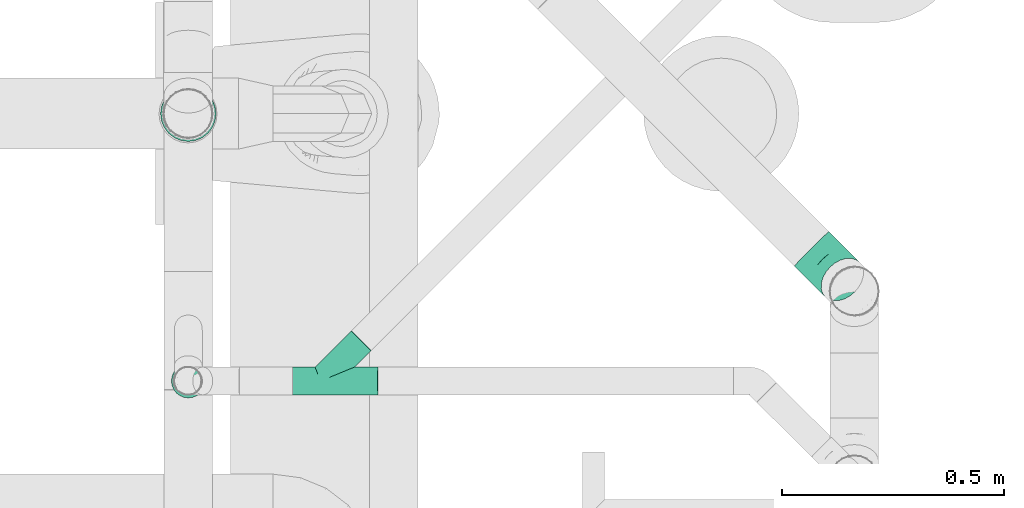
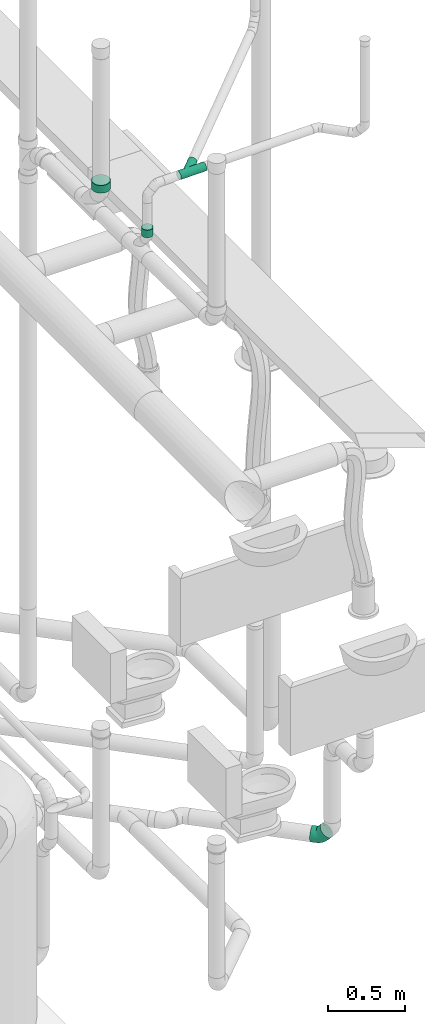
# One storey, part 132 of 374: 4 flow fittings.
"""IFC2X3 building model written with IfcOpenShell, lengths in metres."""

from ifc_helpers import new_model, si_unit, direction, origin, place, context, subcontext, project, spatial, open_shell, surface_model, source, transform, mapped, element, save


model = new_model("IFC2X3")

# Units and contexts
model_context = context("Model", 3, precision=1e-05, world=origin(), true_north=direction((-0.4480736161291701, 0.8939966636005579)))
body_context = subcontext(model_context, "Body", "Model", "MODEL_VIEW")
ifc_project = project(units=[si_unit("LENGTHUNIT", "METRE"), si_unit("AREAUNIT", "SQUARE_METRE"), si_unit("VOLUMEUNIT", "CUBIC_METRE"), si_unit("PLANEANGLEUNIT", "RADIAN"), si_unit("THERMODYNAMICTEMPERATUREUNIT", "KELVIN"), si_unit("MASSUNIT", "GRAM", prefix="KILO"), si_unit("TIMEUNIT", "SECOND")], contexts=[model_context])

# Site, building, storey
site_placement = place(None, origin())
site = spatial("IfcSite", under=ifc_project, at=site_placement, Name="Site 1", CompositionType="ELEMENT")
building_placement = place(site_placement, origin())
building = spatial("IfcBuilding", under=site, at=building_placement, Name="Undefined", CompositionType="ELEMENT")
storey_placement = place(building_placement, origin())
storey = spatial("IfcBuildingStorey", under=building, at=storey_placement, Name="Rez de chauss\x8ee", CompositionType="ELEMENT", Elevation=0.0)

# Flow fittings
shared_shape_1 = source(origin(), body_context, "Body", "SurfaceModel", [
    surface_model("IfcFaceBasedSurfaceModel", [(0.0, 0.0163157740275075, 0.0), (0.0, 0.0, 0.0), (0.06130000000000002, 0.0, 0.0), (0.06130000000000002, 0.0163157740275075, 0.0), (0.0, -0.015759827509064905, -0.004222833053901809), (0.06130000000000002, -0.015759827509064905, -0.004222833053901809), (0.0, -0.029889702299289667, -0.012380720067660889), (0.06130000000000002, -0.029889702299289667, -0.012380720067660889), (0.0, -0.04142669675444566, -0.02391771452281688), (0.06130000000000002, -0.04142669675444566, -0.02391771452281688), (0.0, -0.04958458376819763, -0.038047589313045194), (0.06130000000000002, -0.04958458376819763, -0.038047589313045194), (0.0, -0.053807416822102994, -0.053807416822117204), (0.06130000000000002, -0.053807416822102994, -0.053807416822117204), (0.0, -0.053807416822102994, -0.07012319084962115), (0.06130000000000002, -0.053807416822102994, -0.07012319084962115), (0.0, -0.04958458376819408, -0.08588301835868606), (0.06130000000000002, -0.04958458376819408, -0.08588301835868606), (0.0, -0.04142669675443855, -0.10001289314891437), (0.06130000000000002, -0.04142669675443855, -0.10001289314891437), (0.0, -0.02988970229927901, -0.11154988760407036), (0.06130000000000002, -0.02988970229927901, -0.11154988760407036), (0.0, -0.015759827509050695, -0.11970777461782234), (0.06130000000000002, -0.015759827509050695, -0.11970777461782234), (0.0, 1.4210854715e-14, -0.12393060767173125), (0.06130000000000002, 1.4210854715e-14, -0.12393060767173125), (0.0, 0.016315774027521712, -0.12393060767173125), (0.06130000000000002, 0.016315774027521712, -0.12393060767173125), (0.0, 0.03207560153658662, -0.11970777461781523), (0.06130000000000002, 0.03207560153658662, -0.11970777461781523), (0.0, 0.04620547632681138, -0.11154988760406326), (0.06130000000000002, 0.04620547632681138, -0.11154988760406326), (0.0, 0.05774247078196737, -0.10001289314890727), (0.06130000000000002, 0.05774247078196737, -0.10001289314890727), (0.0, 0.06590035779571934, -0.08588301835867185), (0.06130000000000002, 0.06590035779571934, -0.08588301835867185), (0.0, 0.0701231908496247, -0.07012319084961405), (0.06130000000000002, 0.0701231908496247, -0.07012319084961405), (0.0, 0.0701231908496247, -0.05380741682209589), (0.06130000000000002, 0.0701231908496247, -0.05380741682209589), (0.0, 0.06590035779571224, -0.03804758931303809), (0.06130000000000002, 0.06590035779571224, -0.03804758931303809), (0.0, 0.05774247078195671, -0.023917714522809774), (0.06130000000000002, 0.05774247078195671, -0.023917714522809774), (0.0, 0.04620547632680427, -0.012380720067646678), (0.06130000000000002, 0.04620547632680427, -0.012380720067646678), (0.0, 0.03207560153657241, -0.004222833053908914), (0.06130000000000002, 0.03207560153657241, -0.004222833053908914), (0.0, 0.00815788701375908, -0.06196530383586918), (0.06130000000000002, 0.00815788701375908, -0.06196530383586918)], [open_shell([[[0, 1, 2, 3]], [[1, 4, 5, 2]], [[4, 6, 7, 5]], [[6, 8, 9, 7]], [[8, 10, 11, 9]], [[10, 12, 13, 11]], [[12, 14, 15, 13]], [[14, 16, 17, 15]], [[16, 18, 19, 17]], [[18, 20, 21, 19]], [[20, 22, 23, 21]], [[22, 24, 25, 23]], [[24, 26, 27, 25]], [[26, 28, 29, 27]], [[28, 30, 31, 29]], [[30, 32, 33, 31]], [[32, 34, 35, 33]], [[34, 36, 37, 35]], [[36, 38, 39, 37]], [[38, 40, 41, 39]], [[40, 42, 43, 41]], [[42, 44, 45, 43]], [[44, 46, 47, 45]], [[46, 0, 3, 47]], [[48, 1, 0]], [[48, 4, 1]], [[48, 6, 4]], [[48, 8, 6]], [[48, 10, 8]], [[48, 12, 10]], [[48, 14, 12]], [[48, 16, 14]], [[48, 18, 16]], [[48, 20, 18]], [[48, 22, 20]], [[48, 24, 22]], [[48, 26, 24]], [[48, 28, 26]], [[48, 30, 28]], [[48, 32, 30]], [[48, 34, 32]], [[48, 36, 34]], [[48, 38, 36]], [[48, 40, 38]], [[48, 42, 40]], [[48, 44, 42]], [[48, 46, 44]], [[48, 0, 46]], [[49, 47, 3]], [[49, 45, 47]], [[49, 43, 45]], [[49, 41, 43]], [[49, 39, 41]], [[49, 37, 39]], [[49, 35, 37]], [[49, 33, 35]], [[49, 31, 33]], [[49, 29, 31]], [[49, 27, 29]], [[49, 25, 27]], [[49, 23, 25]], [[49, 21, 23]], [[49, 19, 21]], [[49, 17, 19]], [[49, 15, 17]], [[49, 13, 15]], [[49, 11, 13]], [[49, 9, 11]], [[49, 7, 9]], [[49, 5, 7]], [[49, 2, 5]], [[49, 3, 2]]])]),
])
flow_fitting_1_placement = place(storey_placement, origin())
element("IfcFlowFitting", 1, at=flow_fitting_1_placement, inside=storey, Name="PE-HD manchon électro soudable", ObjectType="PE-HD manchon électro soudable", context=body_context, shape_type="MappedRepresentation", body=[
    mapped(shared_shape_1, transform((57.01362963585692, 12.828378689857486, 4.3185300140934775), x_axis=(0.0, 0.008726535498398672, -0.9999619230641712), y_axis=(-0.13052619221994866, -0.9914071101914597, -0.008651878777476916), z_axis=(-0.9914448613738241, 0.13052122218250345, 0.0011390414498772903))),
])
shared_shape_2 = source(origin(), body_context, "Body", "SurfaceModel", [
    surface_model("IfcFaceBasedSurfaceModel", [(0.0, 0.008223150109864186, -7.105427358e-15), (0.0, 0.0, 0.0), (0.19200000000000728, 1.776356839e-15, -1.11022302e-16), (0.19200000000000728, 0.00822315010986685, -1.11022302e-16), (0.0, -0.007942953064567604, -0.002128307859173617), (0.19200000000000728, -0.007942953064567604, -0.002128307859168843), (-7.105427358e-15, -0.015064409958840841, -0.006239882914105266), (0.19200000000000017, -0.015064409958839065, -0.006239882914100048), (0.0, -0.020879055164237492, -0.012054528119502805), (0.19200000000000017, -0.020879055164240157, -0.01205452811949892), (0.0, -0.024990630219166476, -0.01917598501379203), (0.19200000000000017, -0.024990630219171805, -0.01917598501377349), (-7.105427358e-15, -0.027118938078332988, -0.027118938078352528), (0.19200000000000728, -0.027118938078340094, -0.027118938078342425), (-1.4210854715e-14, -0.02711893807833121, -0.035342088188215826), (0.19200000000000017, -0.02711893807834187, -0.03534208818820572), (-7.105427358e-15, -0.024990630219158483, -0.04328504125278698), (0.19200000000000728, -0.024990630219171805, -0.04328504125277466), (-7.105427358e-15, -0.02087905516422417, -0.050406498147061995), (0.19200000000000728, -0.020879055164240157, -0.05040649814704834), (-7.105427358e-15, -0.015064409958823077, -0.05622114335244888), (0.19200000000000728, -0.015064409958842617, -0.0562211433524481), (-1.4210854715e-14, -0.007942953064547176, -0.06033271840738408), (0.19200000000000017, -0.007942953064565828, -0.06033271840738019), (0.0, 2.2204460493e-14, -0.06246102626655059), (0.19200000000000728, -1.776356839e-15, -0.06246102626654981), (0.0, 0.00822315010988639, -0.06246102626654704), (0.19200000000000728, 0.008223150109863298, -0.06246102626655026), (-7.105427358e-15, 0.016166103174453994, -0.06033271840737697), (0.19200000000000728, 0.016166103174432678, -0.060332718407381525), (-7.105427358e-15, 0.02328756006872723, -0.056221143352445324), (0.19200000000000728, 0.023287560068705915, -0.056221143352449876), (0.0, 0.029102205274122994, -0.05040649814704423), (0.19200000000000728, 0.02910220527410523, -0.05040649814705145), (-7.105427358e-15, 0.03321378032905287, -0.043285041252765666), (0.19200000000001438, 0.03321378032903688, -0.04328504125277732), (-7.105427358e-15, 0.03534208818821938, -0.03534208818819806), (0.19200000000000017, 0.03534208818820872, -0.03534208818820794), (-7.105427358e-15, 0.0353420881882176, -0.027118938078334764), (0.19200000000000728, 0.035342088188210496, -0.02711893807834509), (-7.105427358e-15, 0.03321378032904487, -0.019175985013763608), (0.19200000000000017, 0.033213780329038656, -0.019175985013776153), (-7.105427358e-15, 0.02910220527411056, -0.012054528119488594), (0.19200000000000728, 0.029102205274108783, -0.012054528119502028), (-7.105427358e-15, 0.023287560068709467, -0.00623988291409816), (0.19200000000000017, 0.023287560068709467, -0.006239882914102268), (-7.105427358e-15, 0.016166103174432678, -0.0021283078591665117), (0.19200000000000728, 0.016166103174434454, -0.0021283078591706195), (0.1395477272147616, 0.03534208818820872, -0.03534208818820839), (0.13695646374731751, 0.033213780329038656, -0.04328504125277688), (0.17587812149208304, 0.07180245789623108, -0.048365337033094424), (0.1766370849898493, 0.07211414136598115, -0.04018322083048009), (0.12935926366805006, 0.02910220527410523, -0.050406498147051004), (0.17365295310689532, 0.07301695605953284, -0.05618798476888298), (0.11727386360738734, 0.02328756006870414, -0.05622114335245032), (0.1701132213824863, 0.07567486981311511, -0.06311806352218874), (0.10152386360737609, 0.016166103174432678, -0.06033271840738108), (0.16550015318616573, 0.07959506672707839, -0.06868329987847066), (0.08318260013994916, 0.008223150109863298, -0.06246102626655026), (0.160128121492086, 0.08451039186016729, -0.07250443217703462), (0.06350000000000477, 0.0, -0.06246102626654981), (0.15436322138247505, 0.09008587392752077, -0.07432105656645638), (0.06012299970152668, 0.008223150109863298, -0.06246102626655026), (0.1485983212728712, 0.09594155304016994, -0.07400937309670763), (0.05697613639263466, 0.016166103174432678, -0.06033271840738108), (0.14322628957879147, 0.10167837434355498, -0.0715906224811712), (0.05427386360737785, 0.02328756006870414, -0.056221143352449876), (0.1386132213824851, 0.1069053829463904, -0.06722963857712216), (0.05220033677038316, 0.02910220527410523, -0.050406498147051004), (0.13507348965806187, 0.11126636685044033, -0.06122361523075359), (0.05089686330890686, 0.03321378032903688, -0.04328504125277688), (0.13284832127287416, 0.11446413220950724, -0.05398185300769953), (0.050452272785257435, 0.035342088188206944, -0.03534208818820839), (0.13208935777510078, 0.116280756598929, -0.04599786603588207), (0.05089686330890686, 0.03534208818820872, -0.027118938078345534), (0.13284832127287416, 0.1165924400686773, -0.03781574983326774), (0.05220033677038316, 0.03321378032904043, -0.019175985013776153), (0.13507348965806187, 0.11537794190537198, -0.02999310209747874), (0.05427386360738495, 0.029102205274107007, -0.012054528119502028), (0.1386132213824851, 0.1127200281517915, -0.023063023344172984), (0.05697613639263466, 0.023287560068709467, -0.006239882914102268), (0.14322628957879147, 0.10879983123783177, -0.01749778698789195), (0.060122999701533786, 0.016166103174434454, -0.0021283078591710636), (0.1485983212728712, 0.10388450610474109, -0.013676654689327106), (0.06350000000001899, 0.008223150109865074, -5.55111512e-16), (0.15436322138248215, 0.09830902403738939, -0.011860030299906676), (0.08318260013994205, 0.016166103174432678, -0.0021283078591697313), (0.160128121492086, 0.09245334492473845, -0.012171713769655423), (0.10152386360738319, 0.023287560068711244, -0.006239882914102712), (0.16550015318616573, 0.08671652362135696, -0.014590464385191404), (0.11727386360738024, 0.029102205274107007, -0.012054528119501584), (0.1701132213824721, 0.0814895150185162, -0.018951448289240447), (0.12935926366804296, 0.033213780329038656, -0.019175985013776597), (0.17365295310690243, 0.07712853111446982, -0.024957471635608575), (0.13695646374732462, 0.035342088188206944, -0.027118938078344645), (0.17587812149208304, 0.07393076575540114, -0.03219923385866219)], [open_shell([[[0, 1, 2, 3]], [[1, 4, 5, 2]], [[4, 6, 7, 5]], [[6, 8, 9, 7]], [[8, 10, 11, 9]], [[10, 12, 13, 11]], [[12, 14, 15, 13]], [[14, 16, 17, 15]], [[16, 18, 19, 17]], [[18, 20, 21, 19]], [[20, 22, 23, 21]], [[22, 24, 25, 23]], [[24, 26, 27, 25]], [[26, 28, 29, 27]], [[28, 30, 31, 29]], [[30, 32, 33, 31]], [[32, 34, 35, 33]], [[34, 36, 37, 35]], [[36, 38, 39, 37]], [[38, 40, 41, 39]], [[40, 42, 43, 41]], [[42, 44, 45, 43]], [[44, 46, 47, 45]], [[46, 0, 3, 47]], [[48, 49, 50, 51]], [[49, 52, 53, 50]], [[52, 54, 55, 53]], [[54, 56, 57, 55]], [[56, 58, 59, 57]], [[58, 60, 61, 59]], [[60, 62, 63, 61]], [[62, 64, 65, 63]], [[64, 66, 67, 65]], [[66, 68, 69, 67]], [[68, 70, 71, 69]], [[70, 72, 73, 71]], [[72, 74, 75, 73]], [[74, 76, 77, 75]], [[76, 78, 79, 77]], [[78, 80, 81, 79]], [[80, 82, 83, 81]], [[82, 84, 85, 83]], [[84, 86, 87, 85]], [[86, 88, 89, 87]], [[88, 90, 91, 89]], [[90, 92, 93, 91]], [[92, 94, 95, 93]], [[94, 48, 51, 95]]])]),
])
flow_fitting_2_placement = place(storey_placement, origin())
element("IfcFlowFitting", 2, at=flow_fitting_2_placement, inside=storey, Name="PE-HD embranchement 45°", ObjectType="PE-HD embranchement 45°", context=body_context, shape_type="MappedRepresentation", body=[
    mapped(shared_shape_2, transform((57.308841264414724, 12.201658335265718, 4.668982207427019), x_axis=(0.9998875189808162, 0.0, 0.014998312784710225), y_axis=(-0.0020500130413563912, 0.99061485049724, 0.1366675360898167), z_axis=(-0.014857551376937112, -0.13668291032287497, 0.9905034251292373))),
])
shared_shape_3 = source(origin(), body_context, "Body", "SurfaceModel", [
    surface_model("IfcFaceBasedSurfaceModel", [(-8.8817842e-16, 0.009919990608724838, 0.0), (0.0, 0.0, 0.0), (0.06000000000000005, 8.8817842e-16, 0.0), (0.059999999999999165, 0.009919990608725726, 0.0), (-4.4408921e-16, -0.009581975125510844, -0.0025674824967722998), (0.06000000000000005, -0.009581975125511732, -0.0025674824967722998), (-4.4408921e-16, -0.0181729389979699, -0.007527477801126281), (0.05999999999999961, -0.018172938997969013, -0.0075274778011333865), (-4.4408921e-16, -0.02518743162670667, -0.014541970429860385), (0.05999999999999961, -0.025187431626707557, -0.014541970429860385), (0.0, -0.03014742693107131, -0.02313293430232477), (0.05999999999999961, -0.03014742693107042, -0.02313293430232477), (0.0, -0.032714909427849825, -0.03271490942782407), (0.06000000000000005, -0.03271490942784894, -0.03271490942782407), (0.0, -0.0327149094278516, -0.04263490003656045), (0.05999999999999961, -0.032714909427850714, -0.04263490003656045), (-4.4408921e-16, -0.030147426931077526, -0.052216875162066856), (0.05999999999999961, -0.030147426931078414, -0.052216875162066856), (-4.4408921e-16, -0.025187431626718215, -0.060807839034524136), (0.05999999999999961, -0.025187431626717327, -0.06080783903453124), (-4.4408921e-16, -0.018172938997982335, -0.06782233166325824), (0.06000000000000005, -0.018172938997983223, -0.06782233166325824), (-4.4408921e-16, -0.00958197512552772, -0.07278232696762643), (0.06000000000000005, -0.009581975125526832, -0.07278232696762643), (-8.8817842e-16, -1.5987211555e-14, -0.07534980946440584), (0.059999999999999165, -1.5099033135e-14, -0.07534980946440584), (-8.8817842e-16, 0.009919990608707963, -0.07534980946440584), (0.059999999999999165, 0.00991999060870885, -0.07534980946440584), (-4.4408921e-16, 0.019501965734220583, -0.07278232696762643), (0.05999999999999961, 0.01950196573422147, -0.07278232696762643), (-4.4408921e-16, 0.028092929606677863, -0.06782233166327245), (0.059999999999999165, 0.02809292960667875, -0.06782233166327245), (-8.8817842e-16, 0.035107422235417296, -0.06080783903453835), (0.05999999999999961, 0.03510742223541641, -0.06080783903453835), (-8.8817842e-16, 0.04006741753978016, -0.05221687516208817), (0.059999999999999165, 0.04006741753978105, -0.05221687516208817), (-8.8817842e-16, 0.042634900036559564, -0.04263490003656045), (0.059999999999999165, 0.04263490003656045, -0.04263490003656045), (-8.8817842e-16, 0.04263490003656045, -0.03271490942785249), (0.059999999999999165, 0.04263490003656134, -0.03271490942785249), (-8.8817842e-16, 0.04006741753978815, -0.023132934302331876), (0.05999999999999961, 0.040067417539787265, -0.023132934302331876), (-4.4408921e-16, 0.03510742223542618, -0.014541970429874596), (0.059999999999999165, 0.035107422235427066, -0.014541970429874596), (-4.4408921e-16, 0.028092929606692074, -0.007527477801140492), (0.05999999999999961, 0.028092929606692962, -0.007527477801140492), (-8.8817842e-16, 0.019501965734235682, -0.002567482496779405), (0.059999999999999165, 0.01950196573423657, -0.002567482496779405), (-8.8817842e-16, 0.0049599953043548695, -0.037674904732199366), (0.059999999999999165, 0.004959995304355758, -0.037674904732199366)], [open_shell([[[0, 1, 2, 3]], [[1, 4, 5, 2]], [[4, 6, 7, 5]], [[6, 8, 9, 7]], [[8, 10, 11, 9]], [[10, 12, 13, 11]], [[12, 14, 15, 13]], [[14, 16, 17, 15]], [[16, 18, 19, 17]], [[18, 20, 21, 19]], [[20, 22, 23, 21]], [[22, 24, 25, 23]], [[24, 26, 27, 25]], [[26, 28, 29, 27]], [[28, 30, 31, 29]], [[30, 32, 33, 31]], [[32, 34, 35, 33]], [[34, 36, 37, 35]], [[36, 38, 39, 37]], [[38, 40, 41, 39]], [[40, 42, 43, 41]], [[42, 44, 45, 43]], [[44, 46, 47, 45]], [[46, 0, 3, 47]], [[48, 1, 0]], [[48, 4, 1]], [[48, 6, 4]], [[48, 8, 6]], [[48, 10, 8]], [[48, 12, 10]], [[48, 14, 12]], [[48, 16, 14]], [[48, 18, 16]], [[48, 20, 18]], [[48, 22, 20]], [[48, 24, 22]], [[48, 26, 24]], [[48, 28, 26]], [[48, 30, 28]], [[48, 32, 30]], [[48, 34, 32]], [[48, 36, 34]], [[48, 38, 36]], [[48, 40, 38]], [[48, 42, 40]], [[48, 44, 42]], [[48, 46, 44]], [[48, 0, 46]], [[49, 47, 3]], [[49, 45, 47]], [[49, 43, 45]], [[49, 41, 43]], [[49, 39, 41]], [[49, 37, 39]], [[49, 35, 37]], [[49, 33, 35]], [[49, 31, 33]], [[49, 29, 31]], [[49, 27, 29]], [[49, 25, 27]], [[49, 23, 25]], [[49, 21, 23]], [[49, 19, 21]], [[49, 17, 19]], [[49, 15, 17]], [[49, 13, 15]], [[49, 11, 13]], [[49, 9, 11]], [[49, 7, 9]], [[49, 5, 7]], [[49, 2, 5]], [[49, 3, 2]]])]),
])
flow_fitting_3_placement = place(storey_placement, origin())
element("IfcFlowFitting", 3, at=flow_fitting_3_placement, inside=storey, Name="PE-HD manchon électro soudable", ObjectType="PE-HD manchon électro soudable", context=body_context, shape_type="MappedRepresentation", body=[
    mapped(shared_shape_3, transform((57.03729481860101, 12.200416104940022, 4.251981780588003), x_axis=(0.0, -0.00872653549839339, 0.9999619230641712), y_axis=(-0.13052619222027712, 0.9914071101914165, 0.008651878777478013), z_axis=(-0.9914448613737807, -0.13052122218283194, -0.001139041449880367))),
])
shared_shape_4 = source(origin(), body_context, "Body", "SurfaceModel", [
    surface_model("IfcFaceBasedSurfaceModel", [(0.0, 0.014357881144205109, -3.552713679e-15), (0.0, 0.0, 0.0), (0.03509999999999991, 1.776356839e-15, -1.776356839e-15), (0.03509999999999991, 0.014357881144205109, 0.0), (0.0, -0.01386864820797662, -0.0037160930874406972), (0.035100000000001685, -0.01386864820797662, -0.003716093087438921), (0.0, -0.026302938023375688, -0.010895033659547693), (0.03509999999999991, -0.026302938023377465, -0.010895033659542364), (0.0, -0.03645549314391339, -0.021047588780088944), (0.035100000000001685, -0.03645549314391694, -0.021047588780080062), (0.0, -0.04363443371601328, -0.033481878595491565), (0.035100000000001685, -0.043634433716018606, -0.03348187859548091), (0.0, -0.04735052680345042, -0.04735052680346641), (0.03510000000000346, -0.04735052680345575, -0.04735052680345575), (0.0, -0.04735052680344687, -0.06170840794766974), (0.035100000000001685, -0.047350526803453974, -0.061708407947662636), (0.0, -0.04363443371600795, -0.07557705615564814), (0.035100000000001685, -0.04363443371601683, -0.07557705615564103), (0.0, -0.03645549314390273, -0.08801134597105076), (0.035100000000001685, -0.03645549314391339, -0.08801134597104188), (0.0, -0.026302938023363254, -0.0981639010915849), (0.03510000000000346, -0.026302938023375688, -0.09816390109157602), (0.0, -0.013868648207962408, -0.1053428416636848), (0.03510000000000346, -0.013868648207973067, -0.10534284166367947), (0.0, 1.5987211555e-14, -0.10905893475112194), (0.03510000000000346, 5.329070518e-15, -0.10905893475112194), (0.0, 0.014357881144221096, -0.10905893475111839), (0.035100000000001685, 0.014357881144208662, -0.10905893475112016), (0.0, 0.028226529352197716, -0.10534284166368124), (0.03510000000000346, 0.02822652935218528, -0.10534284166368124), (0.0, 0.040660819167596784, -0.0981639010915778), (0.03510000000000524, 0.040660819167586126, -0.09816390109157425), (0.0, 0.05081337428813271, -0.08801134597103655), (0.035100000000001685, 0.050813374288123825, -0.08801134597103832), (0.0, 0.05799231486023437, -0.07557705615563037), (0.035100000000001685, 0.05799231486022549, -0.07557705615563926), (0.0, 0.06170840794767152, -0.06170840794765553), (0.035100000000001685, 0.06170840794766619, -0.06170840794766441), (0.0, 0.061708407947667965, -0.0473505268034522), (0.035100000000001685, 0.061708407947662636, -0.0473505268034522), (0.0, 0.05799231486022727, -0.033481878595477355), (0.03510000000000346, 0.057992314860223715, -0.033481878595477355), (0.0, 0.050813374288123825, -0.021047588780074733), (0.035100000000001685, 0.05081337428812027, -0.021047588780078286), (0.0, 0.04066081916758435, -0.010895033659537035), (0.035100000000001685, 0.040660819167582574, -0.010895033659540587), (0.0, 0.028226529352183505, -0.0037160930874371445), (0.035100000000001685, 0.028226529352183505, -0.003716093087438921), (0.06308180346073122, -0.04369860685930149, -0.0621891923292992), (0.06356679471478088, -0.043635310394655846, -0.047839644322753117), (0.08915714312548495, -0.03299166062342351, -0.06359878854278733), (0.09009408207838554, -0.03274278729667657, -0.04927367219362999), (0.111549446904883, -0.015959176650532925, -0.0658411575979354), (0.11287449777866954, -0.015415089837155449, -0.05155490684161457), (0.06165988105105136, -0.040168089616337, -0.07603340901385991), (0.086410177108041, -0.03000522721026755, -0.07737137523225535), (0.10766459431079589, -0.013838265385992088, -0.07949979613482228), (0.05939792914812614, -0.033284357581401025, -0.0884288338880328), (0.08204038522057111, -0.023987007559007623, -0.08965285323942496), (0.10148468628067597, -0.009196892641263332, -0.09160000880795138), (0.05645009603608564, -0.02351652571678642, -0.09853073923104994), (0.07634556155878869, -0.015347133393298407, -0.09960626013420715), (0.0934308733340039, -0.0023513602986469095, -0.10131718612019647), (0.05301727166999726, -0.011530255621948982, -0.10565069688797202), (0.06971379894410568, -0.004674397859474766, -0.10655328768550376), (0.08405200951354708, 0.006231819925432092, -0.10798911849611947), (0.04933339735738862, 0.0018576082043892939, -0.10930349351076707), (0.06259704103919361, 0.007303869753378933, -0.11002050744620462), (0.07398724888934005, 0.015967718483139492, -0.1111611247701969), (0.04564952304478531, 0.015734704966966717, -0.10924019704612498), (0.0554802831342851, 0.01977137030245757, -0.10977163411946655), (0.06392248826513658, 0.026192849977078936, -0.1106170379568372), (0.04221669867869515, 0.02915533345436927, -0.1054651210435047), (0.04884852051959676, 0.03187846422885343, -0.10582362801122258), (0.054543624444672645, 0.03621038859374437, -0.10639393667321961), (0.039268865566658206, 0.04120490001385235, -0.09823553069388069), (0.043153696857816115, 0.04280007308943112, -0.09844553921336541), (0.0464898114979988, 0.04533765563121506, -0.09877961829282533), (0.03700691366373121, 0.051062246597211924, -0.08804411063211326), (0.03878390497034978, 0.05179190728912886, -0.08814017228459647), (0.040309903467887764, 0.052952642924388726, -0.08829298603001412), (0.03558499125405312, 0.05805561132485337, -0.07558538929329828), (0.03603693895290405, 0.05824118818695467, -0.0756098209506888), (0.03642505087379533, 0.0585364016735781, -0.07564868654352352), (0.035584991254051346, 0.06177170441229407, -0.04735885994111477), (0.036036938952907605, 0.061957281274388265, -0.047383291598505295), (0.036425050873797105, 0.06225249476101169, -0.04742215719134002), (0.037006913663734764, 0.05824118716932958, -0.03351464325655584), (0.038783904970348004, 0.058970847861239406, -0.033610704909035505), (0.040309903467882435, 0.060131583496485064, -0.03376351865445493), (0.039268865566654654, 0.051357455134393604, -0.021119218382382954), (0.04315369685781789, 0.05295262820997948, -0.02132922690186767), (0.04648981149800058, 0.0554902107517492, -0.02166330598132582), (0.04221669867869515, 0.04158962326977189, -0.011017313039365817), (0.048848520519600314, 0.044312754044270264, -0.01137582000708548), (0.05454362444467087, 0.048644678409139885, -0.011946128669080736), (0.04564952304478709, 0.02960335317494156, -0.0038973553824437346), (0.0554802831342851, 0.03364001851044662, -0.004428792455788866), (0.06392248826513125, 0.04006149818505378, -0.005274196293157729), (0.049333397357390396, 0.016215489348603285, -0.00024455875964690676), (0.06259704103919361, 0.02166175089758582, -0.0009615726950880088), (0.07398724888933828, 0.030325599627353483, -0.0021021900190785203), (0.05301727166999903, 0.002338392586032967, -0.00030785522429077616), (0.06971379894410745, 0.009194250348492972, -0.0012104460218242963), (0.08405200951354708, 0.02010046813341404, -0.0026462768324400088), (0.05645009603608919, -0.011082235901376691, -0.004082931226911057), (0.07634556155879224, -0.002912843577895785, -0.0051584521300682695), (0.09343087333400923, 0.010082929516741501, -0.006869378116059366), (0.05939792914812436, -0.023131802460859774, -0.011312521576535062), (0.08204038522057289, -0.013834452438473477, -0.01253654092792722), (0.10148468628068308, 0.0009556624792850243, -0.014483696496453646), (0.06165988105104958, -0.03298914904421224, -0.021503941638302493), (0.08641017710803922, -0.022826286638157, -0.022841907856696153), (0.10766459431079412, -0.006659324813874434, -0.02497032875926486), (0.06308180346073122, -0.0399825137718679, -0.0339626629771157), (0.08915714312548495, -0.02927556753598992, -0.03537225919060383), (0.11154944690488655, -0.012243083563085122, -0.03761462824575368), (0.13637120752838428, 0.008645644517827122, -0.06908044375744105), (0.13769625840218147, 0.009189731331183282, -0.054794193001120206), (0.13248635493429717, 0.010766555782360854, -0.08273908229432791), (0.12630644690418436, 0.015407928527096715, -0.09483929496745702), (0.11825263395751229, 0.022253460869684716, -0.10455647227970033), (0.10887377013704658, 0.030836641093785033, -0.11122840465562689), (0.09880900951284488, 0.04057253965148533, -0.11440041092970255), (0.08874424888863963, 0.05079767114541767, -0.11385632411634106), (0.0793653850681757, 0.060815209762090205, -0.10963322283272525), (0.07131157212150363, 0.069942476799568, -0.10201890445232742), (0.06513166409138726, 0.07755746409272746, -0.09153227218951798), (0.061246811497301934, 0.08314122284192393, -0.07888797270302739), (0.05992176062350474, 0.08631322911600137, -0.06494769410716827), (0.06124681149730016, 0.08685731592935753, -0.05066144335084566), (0.06513166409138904, 0.0847364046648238, -0.03700280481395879), (0.07131157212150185, 0.08009503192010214, -0.02490259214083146), (0.07936538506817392, 0.07324949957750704, -0.015185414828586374), (0.08874424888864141, 0.06466631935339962, -0.008513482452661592), (0.09880900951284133, 0.05493042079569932, -0.005341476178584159), (0.10887377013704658, 0.04470528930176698, -0.005885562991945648), (0.11825263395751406, 0.03468775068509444, -0.010108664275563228), (0.12630644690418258, 0.02556048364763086, -0.01772298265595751), (0.13248635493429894, 0.017945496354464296, -0.028209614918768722), (0.13637120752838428, 0.01236173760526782, -0.04085391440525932)], [open_shell([[[0, 1, 2, 3]], [[1, 4, 5, 2]], [[4, 6, 7, 5]], [[6, 8, 9, 7]], [[8, 10, 11, 9]], [[10, 12, 13, 11]], [[12, 14, 15, 13]], [[14, 16, 17, 15]], [[16, 18, 19, 17]], [[18, 20, 21, 19]], [[20, 22, 23, 21]], [[22, 24, 25, 23]], [[24, 26, 27, 25]], [[26, 28, 29, 27]], [[28, 30, 31, 29]], [[30, 32, 33, 31]], [[32, 34, 35, 33]], [[34, 36, 37, 35]], [[36, 38, 39, 37]], [[38, 40, 41, 39]], [[40, 42, 43, 41]], [[42, 44, 45, 43]], [[44, 46, 47, 45]], [[46, 0, 3, 47]], [[13, 15, 48, 49]], [[49, 48, 50, 51]], [[51, 50, 52, 53]], [[15, 17, 54, 48]], [[48, 54, 55, 50]], [[50, 55, 56, 52]], [[17, 19, 57, 54]], [[54, 57, 58, 55]], [[55, 58, 59, 56]], [[19, 21, 60, 57]], [[57, 60, 61, 58]], [[58, 61, 62, 59]], [[21, 23, 63, 60]], [[60, 63, 64, 61]], [[61, 64, 65, 62]], [[23, 25, 66, 63]], [[63, 66, 67, 64]], [[64, 67, 68, 65]], [[25, 27, 69, 66]], [[66, 69, 70, 67]], [[67, 70, 71, 68]], [[27, 29, 72, 69]], [[69, 72, 73, 70]], [[70, 73, 74, 71]], [[29, 31, 75, 72]], [[72, 75, 76, 73]], [[73, 76, 77, 74]], [[31, 33, 78, 75]], [[75, 78, 79, 76]], [[76, 79, 80, 77]], [[33, 35, 81, 78]], [[78, 81, 82, 79]], [[79, 82, 83, 80]], [[35, 37, 81]], [[81, 37, 82]], [[82, 37, 83]], [[37, 39, 84]], [[37, 84, 85]], [[37, 85, 86]], [[39, 41, 87, 84]], [[84, 87, 88, 85]], [[85, 88, 89, 86]], [[41, 43, 90, 87]], [[87, 90, 91, 88]], [[88, 91, 92, 89]], [[43, 45, 93, 90]], [[90, 93, 94, 91]], [[91, 94, 95, 92]], [[45, 47, 96, 93]], [[93, 96, 97, 94]], [[94, 97, 98, 95]], [[47, 3, 99, 96]], [[96, 99, 100, 97]], [[97, 100, 101, 98]], [[3, 2, 102, 99]], [[99, 102, 103, 100]], [[100, 103, 104, 101]], [[2, 5, 105, 102]], [[102, 105, 106, 103]], [[103, 106, 107, 104]], [[5, 7, 108, 105]], [[105, 108, 109, 106]], [[106, 109, 110, 107]], [[7, 9, 111, 108]], [[108, 111, 112, 109]], [[109, 112, 113, 110]], [[9, 11, 114, 111]], [[111, 114, 115, 112]], [[112, 115, 116, 113]], [[11, 13, 49, 114]], [[114, 49, 51, 115]], [[115, 51, 53, 116]], [[53, 52, 117, 118]], [[52, 56, 119, 117]], [[56, 59, 120, 119]], [[59, 62, 121, 120]], [[62, 65, 122, 121]], [[65, 68, 123, 122]], [[68, 71, 124, 123]], [[71, 74, 125, 124]], [[74, 77, 126, 125]], [[77, 80, 127, 126]], [[80, 83, 128, 127]], [[83, 37, 129, 128]], [[37, 86, 130, 129]], [[86, 89, 131, 130]], [[89, 92, 132, 131]], [[92, 95, 133, 132]], [[95, 98, 134, 133]], [[98, 101, 135, 134]], [[101, 104, 136, 135]], [[104, 107, 137, 136]], [[107, 110, 138, 137]], [[110, 113, 139, 138]], [[113, 116, 140, 139]], [[116, 53, 118, 140]]])]),
])
flow_fitting_4_placement = place(storey_placement, origin())
element("IfcFlowFitting", 4, at=flow_fitting_4_placement, inside=storey, Name="PE-HD coude 45°", ObjectType="PE-HD coude 45°", context=body_context, shape_type="MappedRepresentation", body=[
    mapped(shared_shape_4, transform((58.440897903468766, 12.469922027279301, -1.18099873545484), x_axis=(0.7070272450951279, -0.7070272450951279, 0.014998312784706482), y_axis=(-0.0984620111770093, -0.07741586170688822, 0.9921250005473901), z_axis=(-0.7002982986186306, -0.7029361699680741, -0.12435044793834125))),
])

save(model, "model.ifc")
